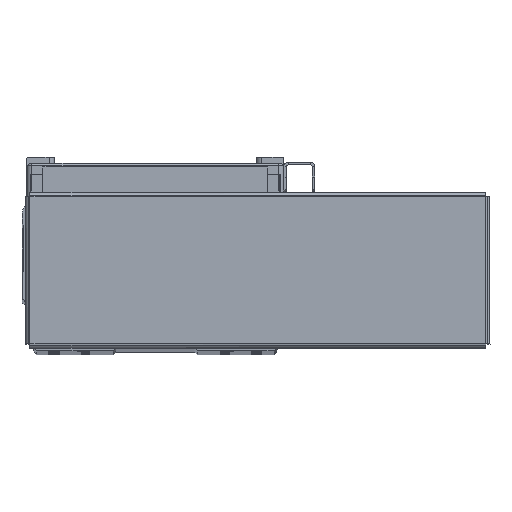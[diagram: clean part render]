
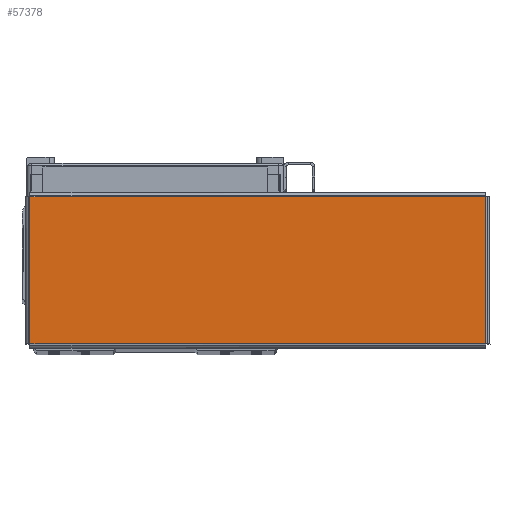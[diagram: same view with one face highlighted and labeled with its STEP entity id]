
A CAD part, top view. The second image highlights one B-rep face of the part: STEP entity #57378.
In plain terms, the highlighted planar face has unit normal (0, 0, 1) as drawn and (0, -1, 0) by its records, which use the part's own axes.
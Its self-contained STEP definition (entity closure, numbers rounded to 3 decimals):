
#5480 = ORIENTED_EDGE ( 'NONE', *, *, #46051, .T. ) ;
#5485 = ORIENTED_EDGE ( 'NONE', *, *, #46044, .T. ) ;
#5496 = ORIENTED_EDGE ( 'NONE', *, *, #46076, .T. ) ;
#5565 = ORIENTED_EDGE ( 'NONE', *, *, #46080, .T. ) ;
#13330 = EDGE_LOOP ( 'NONE', ( #5480, #5485, #5496, #5565 ) ) ;
#25852 = VERTEX_POINT ( 'NONE', #55146 ) ;
#25909 = VERTEX_POINT ( 'NONE', #55184 ) ;
#25912 = VERTEX_POINT ( 'NONE', #55182 ) ;
#25953 = VERTEX_POINT ( 'NONE', #55160 ) ;
#31915 = DIRECTION ( 'NONE',  ( 0., 1., 0. ) ) ;
#31932 = CARTESIAN_POINT ( 'NONE',  ( 0., -1., 0. ) ) ;
#31991 = PLANE ( 'NONE',  #32235 ) ;
#31993 = DIRECTION ( 'NONE',  ( 0., 0., 1. ) ) ;
#32235 = AXIS2_PLACEMENT_3D ( 'NONE', #31932, #31915, #31993 ) ;
#35744 = FACE_OUTER_BOUND ( 'NONE', #13330, .T. ) ;
#46044 = EDGE_CURVE ( 'NONE', #25909, #25912, #56636, .T. ) ;
#46051 = EDGE_CURVE ( 'NONE', #25953, #25909, #56579, .T. ) ;
#46076 = EDGE_CURVE ( 'NONE', #25912, #25852, #56650, .T. ) ;
#46080 = EDGE_CURVE ( 'NONE', #25852, #25953, #56652, .T. ) ;
#53305 = CARTESIAN_POINT ( 'NONE',  ( 92.263, -1., -29.793 ) ) ;
#53308 = DIRECTION ( 'NONE',  ( 0., 0., 1. ) ) ;
#53341 = DIRECTION ( 'NONE',  ( 1., 0., 0. ) ) ;
#53345 = CARTESIAN_POINT ( 'NONE',  ( -92.293, -1., -29.763 ) ) ;
#53433 = CARTESIAN_POINT ( 'NONE',  ( 92.293, -1., 29.763 ) ) ;
#53437 = CARTESIAN_POINT ( 'NONE',  ( -92.263, -1., 29.793 ) ) ;
#53438 = DIRECTION ( 'NONE',  ( 0., 0., -1. ) ) ;
#53465 = DIRECTION ( 'NONE',  ( -1., 0., 0. ) ) ;
#55146 = CARTESIAN_POINT ( 'NONE',  ( -92.263, -1., 29.763 ) ) ;
#55160 = CARTESIAN_POINT ( 'NONE',  ( -92.263, -1., -29.763 ) ) ;
#55182 = CARTESIAN_POINT ( 'NONE',  ( 92.263, -1., 29.763 ) ) ;
#55184 = CARTESIAN_POINT ( 'NONE',  ( 92.263, -1., -29.763 ) ) ;
#56559 = VECTOR ( 'NONE', #53308, 1000. ) ;
#56579 = LINE ( 'NONE', #53345, #56628 ) ;
#56628 = VECTOR ( 'NONE', #53341, 1000. ) ;
#56636 = LINE ( 'NONE', #53305, #56559 ) ;
#56650 = LINE ( 'NONE', #53433, #56716 ) ;
#56652 = LINE ( 'NONE', #53437, #56739 ) ;
#56716 = VECTOR ( 'NONE', #53465, 1000. ) ;
#56739 = VECTOR ( 'NONE', #53438, 1000. ) ;
#57378 = ADVANCED_FACE ( 'NONE', ( #35744 ), #31991, .F. ) ;
